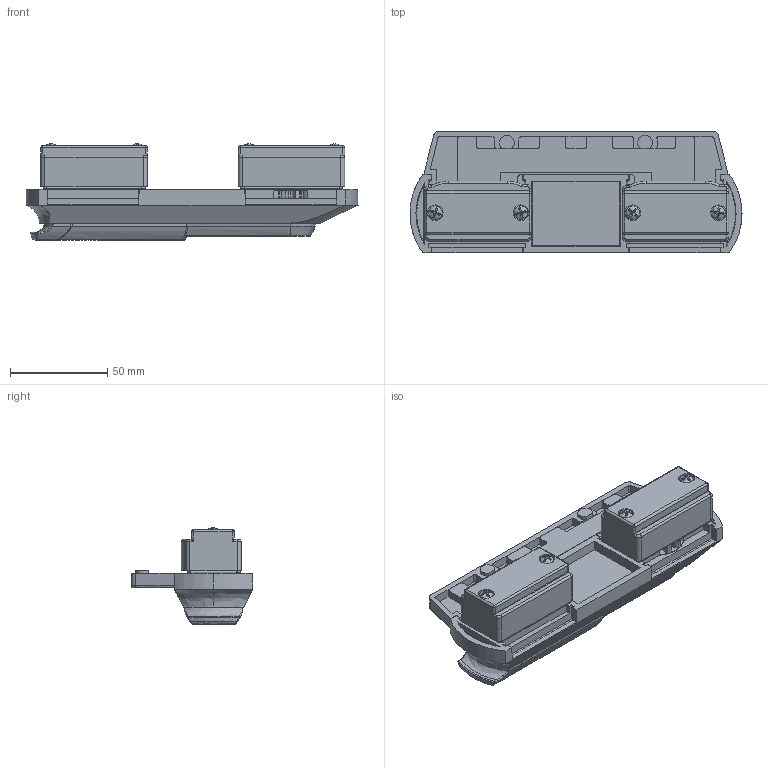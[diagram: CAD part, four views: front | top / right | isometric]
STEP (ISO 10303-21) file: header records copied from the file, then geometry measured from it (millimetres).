
FILE_DESCRIPTION (( 'STEP AP214' ), '1' );
FILE_NAME ('RS720P.STEP', '2016-09-07T11:16:22', ( '' ), ( '' ), 'SwSTEP 2.0', 'SolidWorks 2015', '' );
FILE_SCHEMA (( 'AUTOMOTIVE_DESIGN' ));
Length unit declared in the file: millimetre
Products named in the file (12): 1B.RS720.02.03.00_A; RS720P; 1B.RS720.00.00.03_A; 1B.RS100.001.04_A; 1B.RS100.001.03_A; 1B.RS700.01.07.00_A; Wkrêt 4,2 x 22_K.01; O-RING 42 x 1,5_42x1,5; 1B.RS300.02.02.00_A; 1B.RS720.02.02.00_A; 1B.RS700.01.01_A; 1B.RS720.02.01.00_A
Assembly tree (16 placements, depth 2):
  RS720P
    1B.RS720.02.01.00_A
    1B.RS720.02.02.00_A
    1B.RS700.01.01_A
    1B.RS720.00.00.03_A
    1B.RS100.001.04_A
    1B.RS100.001.03_A
    1B.RS700.01.07.00_A
    1B.RS720.02.03.00_A
    1B.RS300.02.02.00_A  x2
    Wkrêt 4,2 x 22_K.01  x4
    O-RING 42 x 1,5_42x1,5  x2
Bounding box: 170.52 x 62.62 x 49.48 mm (x, y, z)
Volume: 126104.3 mm3; surface area: 92596.2 mm2
Topology: 20 solids, 20 shells, 1067 faces, 2840 edges, 1796 vertices
Faces by surface type: plane 523, cylinder 265, bspline 181, cone 50, torus 32, sphere 16
Entity records: 36672 total; most frequent: CARTESIAN_POINT 16244, ORIENTED_EDGE 4580, DIRECTION 3583, EDGE_CURVE 2290, VERTEX_POINT 1478, VECTOR 1247, LINE 1247, AXIS2_PLACEMENT_3D 1168
